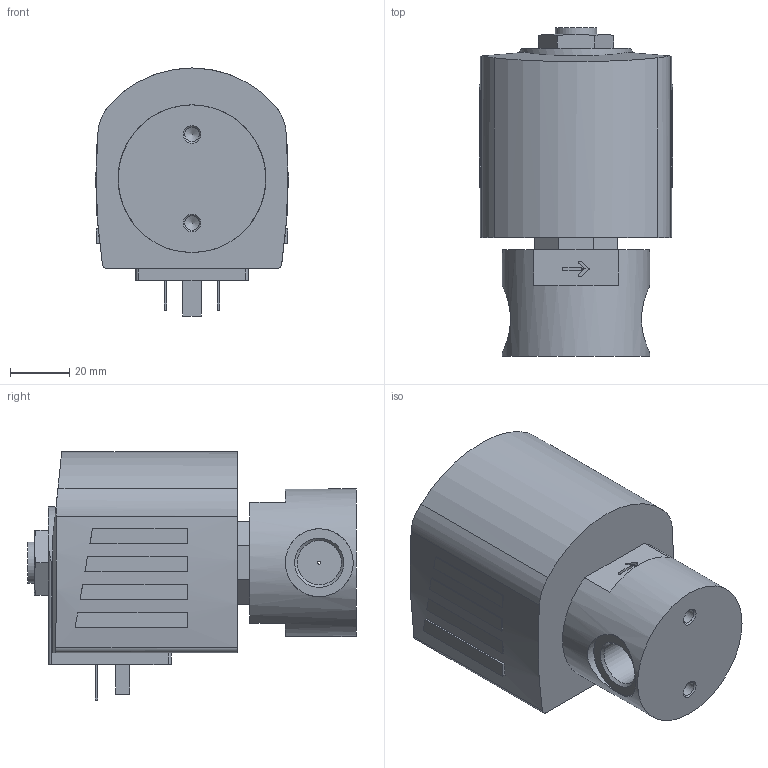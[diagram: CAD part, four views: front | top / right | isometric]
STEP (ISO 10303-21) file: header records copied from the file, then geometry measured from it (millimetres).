
FILE_DESCRIPTION(/* description */ ('STEP AP214'),/* implementation_level */ '2;1');
FILE_NAME(/* name */ '6240-371402-2_2-way_solenoid_valve__pilot-controlled',/* time_stamp */ '2024-05-10T11:54:52+02:00',/* author */ ('License CC BY-ND 4.0'),/* organization */ ('CADENAS'),/* preprocessor_version */ 'ST-DEVELOPER v19.3',/* originating_system */ 'PARTsolutions',/* authorisation */ ' ');
FILE_SCHEMA (('AUTOMOTIVE_DESIGN {1 0 10303 214 3 1 1}'));
Length unit declared in the file: millimetre
Products named in the file (3): 6240-371402-2/2-way solenoid valve, pilot-controlled; 6240-Gehaeuse-2/2-Wege-Magnetventil, vorgesteuert MX32G3/86VA; AC10ex-65SG=l-Plan-Coil
Assembly tree (2 placements, depth 2):
  6240-371402-2/2-way solenoid valve, pilot-controlled
    6240-Gehaeuse-2/2-Wege-Magnetventil, vorgesteuert MX32G3/86VA
    AC10ex-65SG=l-Plan-Coil
Bounding box: 65.62 x 111.2 x 84 mm (x, y, z)
Volume: 322734.6 mm3; surface area: 36533.9 mm2
Topology: 2 solids, 2 shells, 143 faces, 347 edges, 228 vertices
Faces by surface type: plane 102, cylinder 28, cone 13
Full cylindrical faces by diameter (mm): 1 x1, 2.013 x1, 4.917 x2, 14 x1, 14.95 x2, 23 x2, 50 x1
Entity records: 4827 total; most frequent: CARTESIAN_POINT 778, DIRECTION 686, ORIENTED_EDGE 648, EDGE_CURVE 324, AXIS2_PLACEMENT_3D 232, VERTEX_POINT 224, LINE 222, VECTOR 222
